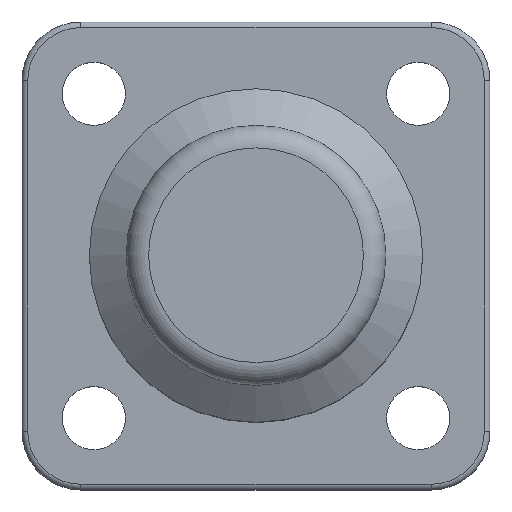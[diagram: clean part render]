
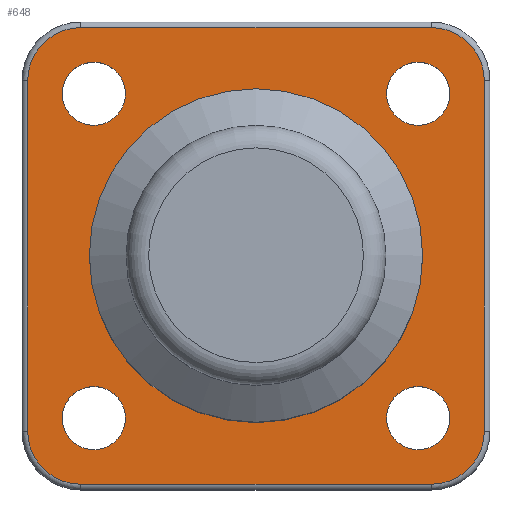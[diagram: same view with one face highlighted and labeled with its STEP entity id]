
A CAD part, top view. The second image highlights one B-rep face of the part: STEP entity #648.
In plain terms, the highlighted planar face has unit normal (0, 0, 1).
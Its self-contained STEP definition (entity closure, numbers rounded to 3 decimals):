
#56=FACE_BOUND('',#255,.T.);
#57=FACE_BOUND('',#256,.T.);
#58=FACE_BOUND('',#257,.T.);
#59=FACE_BOUND('',#258,.T.);
#60=FACE_BOUND('',#259,.T.);
#73=LINE('',#2744,#107);
#74=LINE('',#2748,#108);
#75=LINE('',#2752,#109);
#76=LINE('',#2755,#110);
#107=VECTOR('',#822,10.);
#108=VECTOR('',#825,10.);
#109=VECTOR('',#828,10.);
#110=VECTOR('',#831,10.);
#141=CIRCLE('',#717,4.7);
#142=CIRCLE('',#718,4.7);
#143=CIRCLE('',#719,4.7);
#144=CIRCLE('',#720,4.7);
#145=CIRCLE('',#721,2.795);
#146=CIRCLE('',#722,2.795);
#147=CIRCLE('',#723,2.795);
#148=CIRCLE('',#724,2.795);
#149=CIRCLE('',#725,14.55);
#194=PLANE('',#716);
#209=FACE_OUTER_BOUND('',#254,.T.);
#254=EDGE_LOOP('',(#465,#466,#467,#468,#469,#470,#471,#472));
#255=EDGE_LOOP('',(#473));
#256=EDGE_LOOP('',(#474));
#257=EDGE_LOOP('',(#475));
#258=EDGE_LOOP('',(#476));
#259=EDGE_LOOP('',(#477));
#319=VERTEX_POINT('',#2740);
#320=VERTEX_POINT('',#2741);
#321=VERTEX_POINT('',#2743);
#322=VERTEX_POINT('',#2745);
#323=VERTEX_POINT('',#2747);
#324=VERTEX_POINT('',#2749);
#325=VERTEX_POINT('',#2751);
#326=VERTEX_POINT('',#2753);
#327=VERTEX_POINT('',#2756);
#328=VERTEX_POINT('',#2758);
#329=VERTEX_POINT('',#2760);
#330=VERTEX_POINT('',#2762);
#331=VERTEX_POINT('',#2764);
#375=EDGE_CURVE('',#319,#320,#141,.T.);
#376=EDGE_CURVE('',#321,#319,#73,.T.);
#377=EDGE_CURVE('',#322,#321,#142,.T.);
#378=EDGE_CURVE('',#323,#322,#74,.T.);
#379=EDGE_CURVE('',#324,#323,#143,.T.);
#380=EDGE_CURVE('',#325,#324,#75,.T.);
#381=EDGE_CURVE('',#326,#325,#144,.T.);
#382=EDGE_CURVE('',#320,#326,#76,.T.);
#383=EDGE_CURVE('',#327,#327,#145,.T.);
#384=EDGE_CURVE('',#328,#328,#146,.T.);
#385=EDGE_CURVE('',#329,#329,#147,.T.);
#386=EDGE_CURVE('',#330,#330,#148,.T.);
#387=EDGE_CURVE('',#331,#331,#149,.T.);
#465=ORIENTED_EDGE('',*,*,#375,.F.);
#466=ORIENTED_EDGE('',*,*,#376,.F.);
#467=ORIENTED_EDGE('',*,*,#377,.F.);
#468=ORIENTED_EDGE('',*,*,#378,.F.);
#469=ORIENTED_EDGE('',*,*,#379,.F.);
#470=ORIENTED_EDGE('',*,*,#380,.F.);
#471=ORIENTED_EDGE('',*,*,#381,.F.);
#472=ORIENTED_EDGE('',*,*,#382,.F.);
#473=ORIENTED_EDGE('',*,*,#383,.T.);
#474=ORIENTED_EDGE('',*,*,#384,.T.);
#475=ORIENTED_EDGE('',*,*,#385,.T.);
#476=ORIENTED_EDGE('',*,*,#386,.T.);
#477=ORIENTED_EDGE('',*,*,#387,.F.);
#648=ADVANCED_FACE('',(#209,#56,#57,#58,#59,#60),#194,.F.);
#716=AXIS2_PLACEMENT_3D('',#2739,#818,#819);
#717=AXIS2_PLACEMENT_3D('',#2742,#820,#821);
#718=AXIS2_PLACEMENT_3D('',#2746,#823,#824);
#719=AXIS2_PLACEMENT_3D('',#2750,#826,#827);
#720=AXIS2_PLACEMENT_3D('',#2754,#829,#830);
#721=AXIS2_PLACEMENT_3D('',#2757,#832,#833);
#722=AXIS2_PLACEMENT_3D('',#2759,#834,#835);
#723=AXIS2_PLACEMENT_3D('',#2761,#836,#837);
#724=AXIS2_PLACEMENT_3D('',#2763,#838,#839);
#725=AXIS2_PLACEMENT_3D('',#2765,#840,#841);
#818=DIRECTION('center_axis',(0.,0.,-1.));
#819=DIRECTION('ref_axis',(1.,0.,0.));
#820=DIRECTION('center_axis',(0.,0.,-1.));
#821=DIRECTION('ref_axis',(-0.707,-0.707,0.));
#822=DIRECTION('',(-1.,0.,0.));
#823=DIRECTION('center_axis',(0.,0.,-1.));
#824=DIRECTION('ref_axis',(0.707,-0.707,0.));
#825=DIRECTION('',(0.,-1.,0.));
#826=DIRECTION('center_axis',(0.,0.,-1.));
#827=DIRECTION('ref_axis',(0.707,0.707,0.));
#828=DIRECTION('',(1.,0.,0.));
#829=DIRECTION('center_axis',(0.,0.,-1.));
#830=DIRECTION('ref_axis',(-0.707,0.707,0.));
#831=DIRECTION('',(0.,1.,0.));
#832=DIRECTION('center_axis',(0.,0.,-1.));
#833=DIRECTION('ref_axis',(1.,0.,0.));
#834=DIRECTION('center_axis',(0.,0.,-1.));
#835=DIRECTION('ref_axis',(1.,0.,0.));
#836=DIRECTION('center_axis',(0.,0.,-1.));
#837=DIRECTION('ref_axis',(1.,0.,0.));
#838=DIRECTION('center_axis',(0.,0.,-1.));
#839=DIRECTION('ref_axis',(1.,0.,0.));
#840=DIRECTION('center_axis',(0.,0.,1.));
#841=DIRECTION('ref_axis',(1.,0.,0.));
#2739=CARTESIAN_POINT('Origin',(0.,0.,
-35.5));
#2740=CARTESIAN_POINT('',(-15.501,-20.201,-35.5));
#2741=CARTESIAN_POINT('',(-20.201,-15.501,-35.5));
#2742=CARTESIAN_POINT('Origin',(-15.501,-15.501,-35.5));
#2743=CARTESIAN_POINT('',(15.501,-20.201,-35.5));
#2744=CARTESIAN_POINT('',(7.751,-20.201,-35.5));
#2745=CARTESIAN_POINT('',(20.201,-15.501,-35.5));
#2746=CARTESIAN_POINT('Origin',(15.501,-15.501,-35.5));
#2747=CARTESIAN_POINT('',(20.201,15.501,-35.5));
#2748=CARTESIAN_POINT('',(20.201,7.751,-35.5));
#2749=CARTESIAN_POINT('',(15.501,20.201,-35.5));
#2750=CARTESIAN_POINT('Origin',(15.501,15.501,-35.5));
#2751=CARTESIAN_POINT('',(-15.501,20.201,-35.5));
#2752=CARTESIAN_POINT('',(-7.751,20.201,-35.5));
#2753=CARTESIAN_POINT('',(-20.201,15.501,-35.5));
#2754=CARTESIAN_POINT('Origin',(-15.501,15.501,-35.5));
#2755=CARTESIAN_POINT('',(-20.201,-7.75,-35.5));
#2756=CARTESIAN_POINT('',(11.556,14.351,-35.5));
#2757=CARTESIAN_POINT('Origin',(14.351,14.351,-35.5));
#2758=CARTESIAN_POINT('',(11.556,-14.351,-35.5));
#2759=CARTESIAN_POINT('Origin',(14.351,-14.351,-35.5));
#2760=CARTESIAN_POINT('',(-17.146,14.351,-35.5));
#2761=CARTESIAN_POINT('Origin',(-14.351,14.351,-35.5));
#2762=CARTESIAN_POINT('',(-17.146,-14.351,-35.5));
#2763=CARTESIAN_POINT('Origin',(-14.351,-14.351,-35.5));
#2764=CARTESIAN_POINT('',(-14.55,0.,-35.5));
#2765=CARTESIAN_POINT('Origin',(0.,0.,-35.5));
